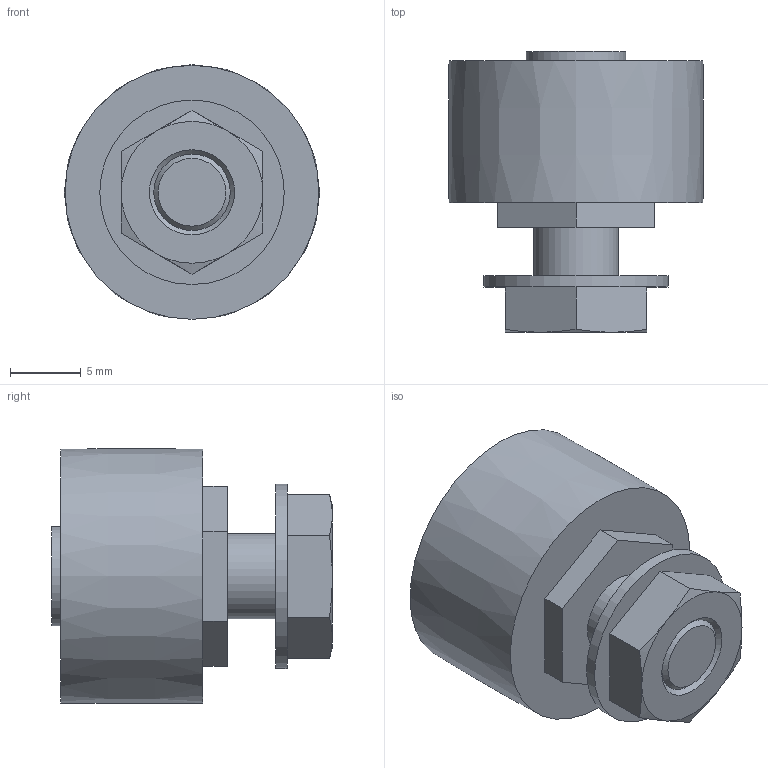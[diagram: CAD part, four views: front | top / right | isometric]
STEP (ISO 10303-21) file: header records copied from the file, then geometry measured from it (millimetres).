
FILE_DESCRIPTION( ( 'STEP AP203' ), '1' );
FILE_NAME( 'p:/temp/worker_133/temp/exporttempdir_5812_1271_krI0p/format_1/SR18C.stp', '2021-09-29T07:15:21', ( 'License CC BY-ND 4.0' ), ( 'CADENAS' ), ' ', 'PARTsolutions', ' ' );
FILE_SCHEMA( ( 'CONFIG_CONTROL_DESIGN' ) );
Length unit declared in the file: millimetre
Products named in the file (2): SR18C; _SR18CNS_
Assembly tree (1 placements, depth 2):
  SR18C
    _SR18CNS_
Bounding box: 17.99 x 19.8 x 17.94 mm (x, y, z)
Volume: 3212.9 mm3; surface area: 1580.9 mm2
Topology: 1 solids, 1 shells, 39 faces, 85 edges, 55 vertices
Faces by surface type: plane 27, cone 8, cylinder 3, bspline 1
Full cylindrical faces by diameter (mm): 6 x1, 7 x1, 13 x1
Entity records: 1126 total; most frequent: CARTESIAN_POINT 238, DIRECTION 162, ORIENTED_EDGE 154, EDGE_CURVE 77, AXIS2_PLACEMENT_3D 57, VERTEX_POINT 53, EDGE_LOOP 52, LINE 48
